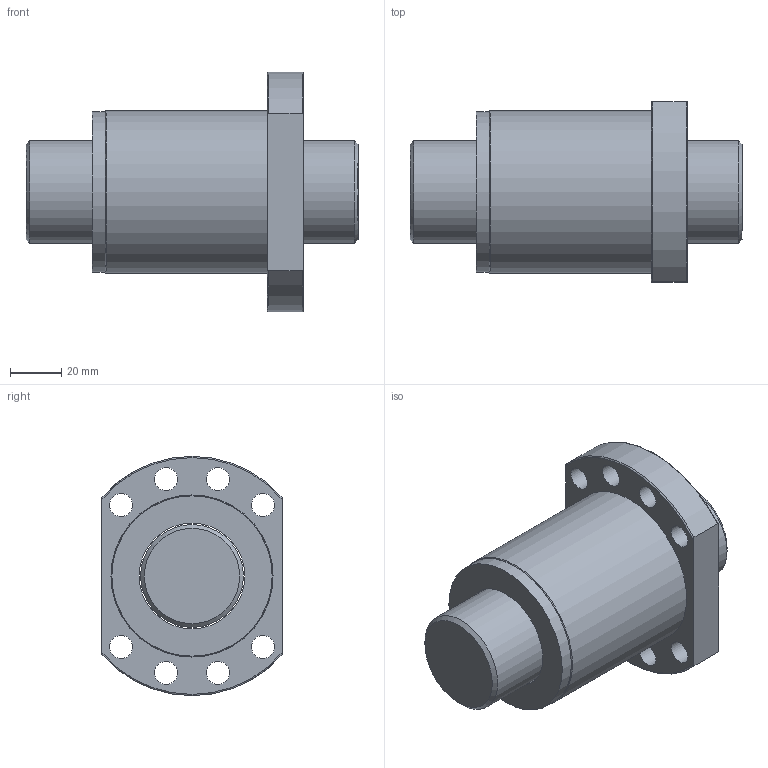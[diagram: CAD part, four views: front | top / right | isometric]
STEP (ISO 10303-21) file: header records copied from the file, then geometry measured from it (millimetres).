
FILE_DESCRIPTION(/* description */ (''),/* implementation_level */ '2;1');
FILE_NAME(/* name */ 'SFS4020',/* time_stamp */ '2007-10-26T11:22:00+08:00',/* author */ (''),/* organization */ (''),/* preprocessor_version */ 'ST-DEVELOPER v9',/* originating_system */ 'UGS - NX 3.0',/* authorisation */ '');
FILE_SCHEMA (('CONFIG_CONTROL_DESIGN'));
Length unit declared in the file: millimetre
Products named in the file (1): jaso37B0hu8g
Bounding box: 129 x 70 x 93 mm (x, y, z)
Volume: 339547.1 mm3; surface area: 66383.3 mm2
Topology: 4 solids, 4 shells, 37 faces, 78 edges, 51 vertices
Faces by surface type: cylinder 18, plane 12, torus 5, cone 2
Full cylindrical faces by diameter (mm): 9 x8, 40 x1, 41 x3, 62.3 x2, 62.5 x1, 63 x1
Entity records: 1174 total; most frequent: CARTESIAN_POINT 298, DIRECTION 170, ORIENTED_EDGE 118, AXIS2_PLACEMENT_3D 81, EDGE_LOOP 80, FACE_BOUND 60, EDGE_CURVE 59, VERTEX_POINT 51
